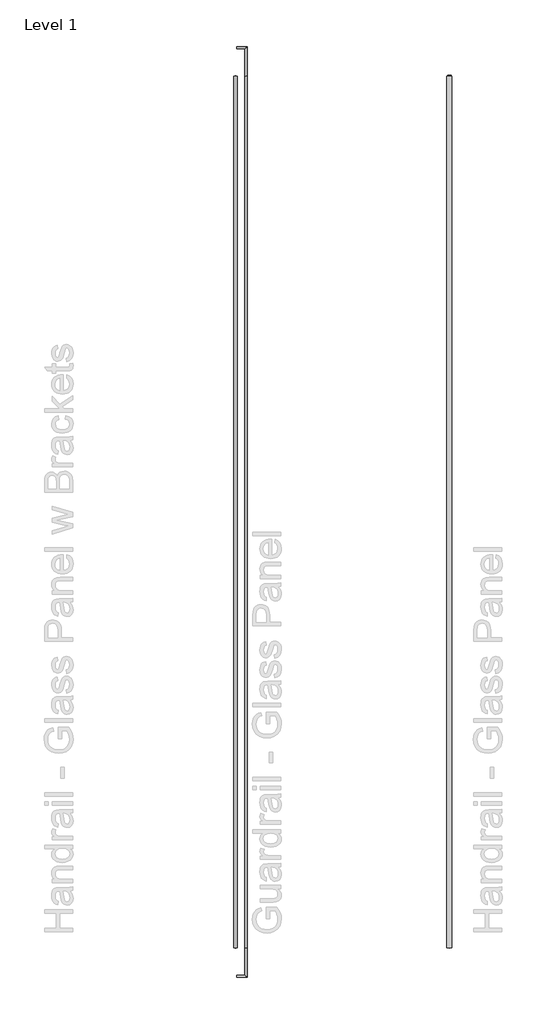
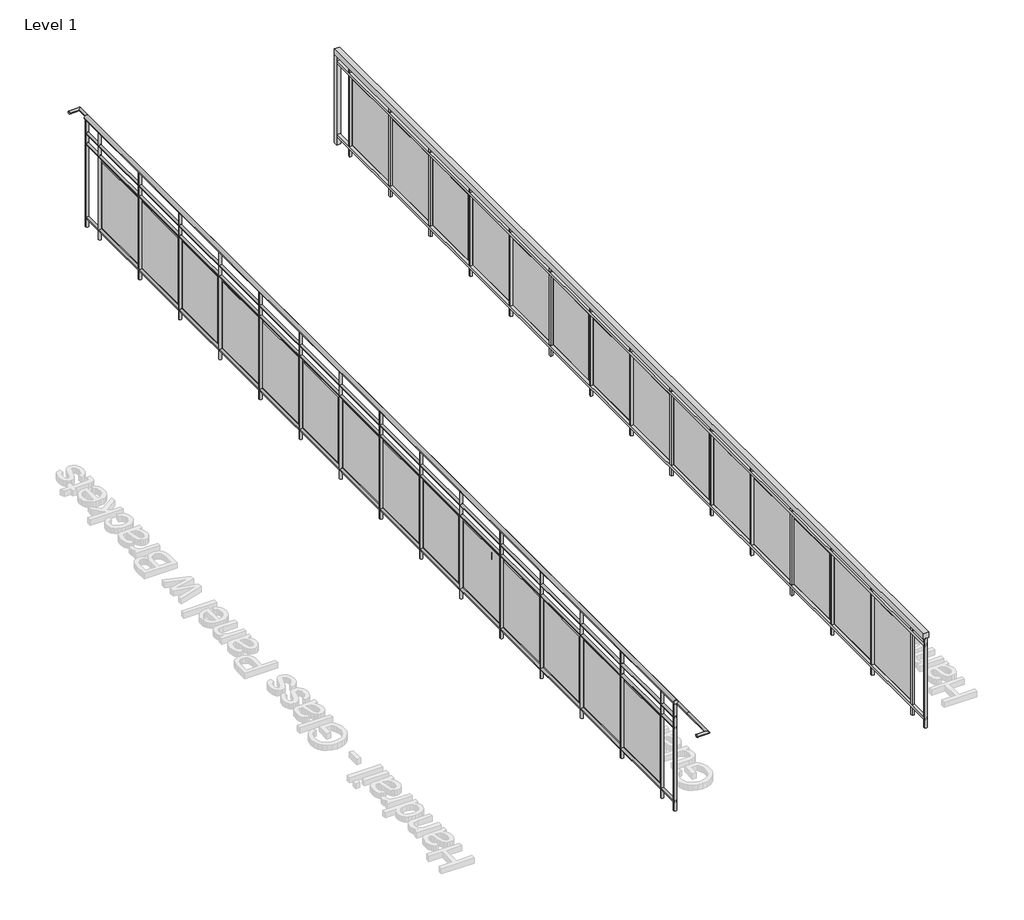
# One storey, part 4 of 14: 2 railings.
"""IFC4 building model written with IfcOpenShell, lengths in millimetres."""

from ifc_helpers import new_model, si_unit, point, frame, frame_2d, origin, origin_with_axes, place, context, project, spatial, polyline, circle_curve, ellipse_curve, trimmed, segment, composite_curve, outline, extrude, element, save
from ifc_brep_helpers import plane_surface, cylinder_surface, advanced_brep

model = new_model("IFC4")

# Units and contexts
model_context = context("Model", 3, world=origin())
ifc_project = project(units=[si_unit("LENGTHUNIT", "METRE", prefix="MILLI")], contexts=[model_context])

# Site, building, storey
site = spatial("IfcSite", under=ifc_project)
building = spatial("IfcBuilding", under=site)
storey = spatial("IfcBuildingStorey", under=building, Name="Level 1", Elevation=0.0)

# Railings
placement = place(None, origin())
element("IfcRailing", 1, ObjectType="Guardrail - Glass Panel", at=placement, inside=storey, context=model_context, shape_type="SolidModel", body=[
    advanced_brep(
    [(-12825.9978678, -5345.4143828, 901.7), (-12851.3978678, -5345.4143828, 901.7), (-12851.3978678, -14660.8643828, 901.7), (-12825.9978678, -14660.8643828, 901.7), (-12937.1228678, -5053.3143828, 901.7), (-12937.1228678, -5027.9143828, 901.7), (-12851.3978678, -5053.3143828, 901.7), (-12825.9978678, -5027.9143828, 901.7), (-12851.3978678, -14952.9643828, 901.7), (-12825.9978678, -14978.3643828, 901.7), (-12937.1228678, -14952.9643828, 901.7), (-12937.1228678, -14978.3643828, 901.7)],
    [
        (0, 1, circle_curve(frame((-12838.6978678, -5345.4143828, 901.7), z_axis=(0.0, -1.0, 0.0), x_axis=(1.0, 0.0, 0.0)), 12.7)),
        (1, 2),
        (2, 3, circle_curve(frame((-12838.6978678, -14660.8643828, 901.7), z_axis=(0.0, 1.0, 0.0), x_axis=(1.0, 0.0, 0.0)), 12.7)),
        (3, 0),
        (1, 0, circle_curve(frame((-12838.6978678, -5345.4143828, 901.7), z_axis=(0.0, -1.0, 0.0), x_axis=(1.0, 0.0, 0.0)), 12.7)),
        (3, 2, circle_curve(frame((-12838.6978678, -14660.8643828, 901.7), z_axis=(0.0, 1.0, 0.0), x_axis=(1.0, 0.0, 0.0)), 12.7)),
        (4, 5, circle_curve(frame((-12937.1228678, -5040.6143828, 901.7), z_axis=(-1.0, 0.0, 0.0), x_axis=(0.0, 1.0, 0.0)), 12.7)),
        (5, 4, circle_curve(frame((-12937.1228678, -5040.6143828, 901.7), z_axis=(-1.0, 0.0, 0.0), x_axis=(0.0, 1.0, 0.0)), 12.7)),
        (4, 6),
        (6, 7, ellipse_curve(frame((-12838.6978678, -5040.6143828, 901.7), z_axis=(-0.7071067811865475, 0.7071067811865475, 0.0), x_axis=(-0.7071067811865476, -0.7071067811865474, 0.0)), 17.9605122, 12.7)),
        (7, 5),
        (7, 6, ellipse_curve(frame((-12838.6978678, -5040.6143828, 901.7), z_axis=(-0.7071067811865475, 0.7071067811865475, 0.0), x_axis=(-0.7071067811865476, -0.7071067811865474, 0.0)), 17.9605122, 12.7)),
        (6, 1),
        (0, 7),
        (2, 8),
        (8, 9, ellipse_curve(frame((-12838.6978678, -14965.6643828, 901.7), z_axis=(0.7071067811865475, 0.7071067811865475, 0.0), x_axis=(-0.7071067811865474, 0.7071067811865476, 0.0)), 17.9605122, 12.7)),
        (9, 3),
        (9, 8, ellipse_curve(frame((-12838.6978678, -14965.6643828, 901.7), z_axis=(0.7071067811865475, 0.7071067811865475, 0.0), x_axis=(-0.7071067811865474, 0.7071067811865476, 0.0)), 17.9605122, 12.7)),
        (10, 11, circle_curve(frame((-12937.1228678, -14965.6643828, 901.7), z_axis=(-1.0, 0.0, 0.0), x_axis=(0.0, -1.0, 0.0)), 12.7)),
        (11, 10, circle_curve(frame((-12937.1228678, -14965.6643828, 901.7), z_axis=(-1.0, 0.0, 0.0), x_axis=(0.0, -1.0, 0.0)), 12.7)),
        (8, 10),
        (11, 9),
    ],
    [
        cylinder_surface(frame((-12838.6978678, -5345.4143828, 901.7), z_axis=(0.0, 1.0, 0.0), x_axis=(1.0, 0.0, 0.0)), 12.7),
        plane_surface(frame((-12937.1228678, -5040.6143828, 914.4), z_axis=(-1.0, 0.0, 0.0), x_axis=(0.0, 1.0, 0.0))),
        cylinder_surface(frame((-12937.1228678, -5040.6143828, 901.7), z_axis=(-1.0, 0.0, 0.0), x_axis=(0.0, 1.0, 0.0)), 12.7),
        cylinder_surface(frame((-12838.6978678, -5040.6143828, 901.7), z_axis=(0.0, 1.0, 0.0), x_axis=(1.0, 0.0, 0.0)), 12.7),
        cylinder_surface(frame((-12838.6978678, -14660.8643828, 901.7), z_axis=(0.0, 1.0, 0.0), x_axis=(1.0, 0.0, 0.0)), 12.7),
        plane_surface(frame((-12937.1228678, -14965.6643828, 914.4), z_axis=(-1.0, 0.0, 0.0), x_axis=(0.0, -1.0, 0.0))),
        cylinder_surface(frame((-12838.6978678, -14965.6643828, 901.7), z_axis=(1.0, 0.0, 0.0), x_axis=(0.0, -1.0, 0.0)), 12.7),
    ],
    [
        (0, [[1, 2, 3, 4]]),
        (0, [[5, -4, 6, -2]]),
        (1, [[7, 8]]),
        (2, [[-7, 9, 10, 11]]),
        (2, [[-8, -11, 12, -9]]),
        (3, [[-10, 13, -1, 14]]),
        (3, [[-12, -14, -5, -13]]),
        (4, [[-3, 15, 16, 17]]),
        (4, [[-6, -17, 18, -15]]),
        (5, [[19, 20]]),
        (6, [[-16, 21, -20, 22]]),
        (6, [[-18, -22, -19, -21]]),
    ],
),
    extrude(outline(composite_curve([segment(trimmed(circle_curve(frame_2d((1047.75, -12952.9978678)), 19.05), [point((1047.75, -12972.0478678))], [point((1047.75, -12933.9478678))], False, "CARTESIAN"), True, "CONTINUOUS"), segment(trimmed(circle_curve(frame_2d((1047.75, -12952.9978678)), 19.05), [point((1047.75, -12933.9478678))], [point((1047.75, -12972.0478678))], False, "CARTESIAN"), True, "CONTINUOUS")], self_intersect=False)), frame((0.0, -14660.8643828, 0.0), z_axis=(0.0, 1.0, 0.0), x_axis=(0.0, 0.0, 1.0)), (0.0, 0.0, 1.0), 9315.45),
    extrude(outline(composite_curve([segment(trimmed(circle_curve(frame_2d((901.7, -12952.9978678)), 12.7), [point((901.7, -12940.2978678))], [point((901.7, -12965.6978678))], False, "CARTESIAN"), True, "CONTINUOUS"), segment(trimmed(circle_curve(frame_2d((901.7, -12952.9978678)), 12.7), [point((901.7, -12965.6978678))], [point((901.7, -12940.2978678))], False, "CARTESIAN"), True, "CONTINUOUS")], self_intersect=False)), frame((0.0, -14660.8643828, 0.0), z_axis=(0.0, 1.0, 0.0), x_axis=(0.0, 0.0, 1.0)), (0.0, 0.0, 1.0), 9315.45),
    extrude(outline(composite_curve([segment(trimmed(circle_curve(frame_2d((800.1, -12952.9978678)), 12.7), [point((800.1, -12940.2978678))], [point((800.1, -12965.6978678))], False, "CARTESIAN"), True, "CONTINUOUS"), segment(trimmed(circle_curve(frame_2d((800.1, -12952.9978678)), 12.7), [point((800.1, -12965.6978678))], [point((800.1, -12940.2978678))], False, "CARTESIAN"), True, "CONTINUOUS")], self_intersect=False)), frame((0.0, -14660.8643828, 0.0), z_axis=(0.0, 1.0, 0.0), x_axis=(0.0, 0.0, 1.0)), (0.0, 0.0, 1.0), 9315.45),
    extrude(outline(composite_curve([segment(trimmed(circle_curve(frame_2d((88.9, -12952.9978678)), 12.7), [point((88.9, -12940.2978678))], [point((88.9, -12965.6978678))], False, "CARTESIAN"), True, "CONTINUOUS"), segment(trimmed(circle_curve(frame_2d((88.9, -12952.9978678)), 12.7), [point((88.9, -12965.6978678))], [point((88.9, -12940.2978678))], False, "CARTESIAN"), True, "CONTINUOUS")], self_intersect=False)), frame((0.0, -14660.8643828, 0.0), z_axis=(0.0, 1.0, 0.0), x_axis=(0.0, 0.0, 1.0)), (0.0, 0.0, 1.0), 9315.45),
    extrude(outline(composite_curve([segment(trimmed(circle_curve(frame_2d((-12952.9978678, -14448.1393828)), 12.7), [point((-12940.2978678, -14448.1393828))], [point((-12965.6978678, -14448.1393828))], False, "CARTESIAN"), True, "CONTINUOUS"), segment(trimmed(circle_curve(frame_2d((-12952.9978678, -14448.1393828)), 12.7), [point((-12965.6978678, -14448.1393828))], [point((-12940.2978678, -14448.1393828))], False, "CARTESIAN"), True, "CONTINUOUS")], self_intersect=False)), origin_with_axes(), (0.0, 0.0, 1.0), 1028.7),
    extrude(outline(polyline([(-12946.6478678, -13851.2393828), (-12946.6478678, -14410.0393828), (-12952.9978678, -14410.0393828), (-12952.9978678, -13851.2393828), (-12946.6478678, -13851.2393828)])), frame((0.0, 0.0, 127.0), z_axis=(0.0, 0.0, 1.0), x_axis=(1.0, 0.0, 0.0)), (0.0, 0.0, 1.0), 635.0),
    extrude(outline(composite_curve([segment(trimmed(circle_curve(frame_2d((-12952.9978678, -13813.1393828)), 12.7), [point((-12940.2978678, -13813.1393828))], [point((-12965.6978678, -13813.1393828))], False, "CARTESIAN"), True, "CONTINUOUS"), segment(trimmed(circle_curve(frame_2d((-12952.9978678, -13813.1393828)), 12.7), [point((-12965.6978678, -13813.1393828))], [point((-12940.2978678, -13813.1393828))], False, "CARTESIAN"), True, "CONTINUOUS")], self_intersect=False)), origin_with_axes(), (0.0, 0.0, 1.0), 1028.7),
    extrude(outline(polyline([(-12946.6478678, -13216.2393828), (-12946.6478678, -13775.0393828), (-12952.9978678, -13775.0393828), (-12952.9978678, -13216.2393828), (-12946.6478678, -13216.2393828)])), frame((0.0, 0.0, 127.0), z_axis=(0.0, 0.0, 1.0), x_axis=(1.0, 0.0, 0.0)), (0.0, 0.0, 1.0), 635.0),
    extrude(outline(composite_curve([segment(trimmed(circle_curve(frame_2d((-12952.9978678, -13178.1393828)), 12.7), [point((-12940.2978678, -13178.1393828))], [point((-12965.6978678, -13178.1393828))], False, "CARTESIAN"), True, "CONTINUOUS"), segment(trimmed(circle_curve(frame_2d((-12952.9978678, -13178.1393828)), 12.7), [point((-12965.6978678, -13178.1393828))], [point((-12940.2978678, -13178.1393828))], False, "CARTESIAN"), True, "CONTINUOUS")], self_intersect=False)), origin_with_axes(), (0.0, 0.0, 1.0), 1028.7),
    extrude(outline(polyline([(-12946.6478678, -12581.2393828), (-12946.6478678, -13140.0393828), (-12952.9978678, -13140.0393828), (-12952.9978678, -12581.2393828), (-12946.6478678, -12581.2393828)])), frame((0.0, 0.0, 127.0), z_axis=(0.0, 0.0, 1.0), x_axis=(1.0, 0.0, 0.0)), (0.0, 0.0, 1.0), 635.0),
    extrude(outline(composite_curve([segment(trimmed(circle_curve(frame_2d((-12952.9978678, -12543.1393828)), 12.7), [point((-12940.2978678, -12543.1393828))], [point((-12965.6978678, -12543.1393828))], False, "CARTESIAN"), True, "CONTINUOUS"), segment(trimmed(circle_curve(frame_2d((-12952.9978678, -12543.1393828)), 12.7), [point((-12965.6978678, -12543.1393828))], [point((-12940.2978678, -12543.1393828))], False, "CARTESIAN"), True, "CONTINUOUS")], self_intersect=False)), origin_with_axes(), (0.0, 0.0, 1.0), 1028.7),
    extrude(outline(polyline([(-12946.6478678, -11946.2393828), (-12946.6478678, -12505.0393828), (-12952.9978678, -12505.0393828), (-12952.9978678, -11946.2393828), (-12946.6478678, -11946.2393828)])), frame((0.0, 0.0, 127.0), z_axis=(0.0, 0.0, 1.0), x_axis=(1.0, 0.0, 0.0)), (0.0, 0.0, 1.0), 635.0),
    extrude(outline(composite_curve([segment(trimmed(circle_curve(frame_2d((-12952.9978678, -11908.1393828)), 12.7), [point((-12940.2978678, -11908.1393828))], [point((-12965.6978678, -11908.1393828))], False, "CARTESIAN"), True, "CONTINUOUS"), segment(trimmed(circle_curve(frame_2d((-12952.9978678, -11908.1393828)), 12.7), [point((-12965.6978678, -11908.1393828))], [point((-12940.2978678, -11908.1393828))], False, "CARTESIAN"), True, "CONTINUOUS")], self_intersect=False)), origin_with_axes(), (0.0, 0.0, 1.0), 1028.7),
    extrude(outline(polyline([(-12946.6478678, -11311.2393828), (-12946.6478678, -11870.0393828), (-12952.9978678, -11870.0393828), (-12952.9978678, -11311.2393828), (-12946.6478678, -11311.2393828)])), frame((0.0, 0.0, 127.0), z_axis=(0.0, 0.0, 1.0), x_axis=(1.0, 0.0, 0.0)), (0.0, 0.0, 1.0), 635.0),
    extrude(outline(composite_curve([segment(trimmed(circle_curve(frame_2d((-12952.9978678, -11273.1393828)), 12.7), [point((-12940.2978678, -11273.1393828))], [point((-12965.6978678, -11273.1393828))], False, "CARTESIAN"), True, "CONTINUOUS"), segment(trimmed(circle_curve(frame_2d((-12952.9978678, -11273.1393828)), 12.7), [point((-12965.6978678, -11273.1393828))], [point((-12940.2978678, -11273.1393828))], False, "CARTESIAN"), True, "CONTINUOUS")], self_intersect=False)), origin_with_axes(), (0.0, 0.0, 1.0), 1028.7),
    extrude(outline(polyline([(-12946.6478678, -10676.2393828), (-12946.6478678, -11235.0393828), (-12952.9978678, -11235.0393828), (-12952.9978678, -10676.2393828), (-12946.6478678, -10676.2393828)])), frame((0.0, 0.0, 127.0), z_axis=(0.0, 0.0, 1.0), x_axis=(1.0, 0.0, 0.0)), (0.0, 0.0, 1.0), 635.0),
    extrude(outline(composite_curve([segment(trimmed(circle_curve(frame_2d((-12952.9978678, -10638.1393828)), 12.7), [point((-12940.2978678, -10638.1393828))], [point((-12965.6978678, -10638.1393828))], False, "CARTESIAN"), True, "CONTINUOUS"), segment(trimmed(circle_curve(frame_2d((-12952.9978678, -10638.1393828)), 12.7), [point((-12965.6978678, -10638.1393828))], [point((-12940.2978678, -10638.1393828))], False, "CARTESIAN"), True, "CONTINUOUS")], self_intersect=False)), origin_with_axes(), (0.0, 0.0, 1.0), 1028.7),
    extrude(outline(polyline([(-12946.6478678, -10041.2393828), (-12946.6478678, -10600.0393828), (-12952.9978678, -10600.0393828), (-12952.9978678, -10041.2393828), (-12946.6478678, -10041.2393828)])), frame((0.0, 0.0, 127.0), z_axis=(0.0, 0.0, 1.0), x_axis=(1.0, 0.0, 0.0)), (0.0, 0.0, 1.0), 635.0),
    extrude(outline(composite_curve([segment(trimmed(circle_curve(frame_2d((-12952.9978678, -10003.1393828)), 12.7), [point((-12940.2978678, -10003.1393828))], [point((-12965.6978678, -10003.1393828))], False, "CARTESIAN"), True, "CONTINUOUS"), segment(trimmed(circle_curve(frame_2d((-12952.9978678, -10003.1393828)), 12.7), [point((-12965.6978678, -10003.1393828))], [point((-12940.2978678, -10003.1393828))], False, "CARTESIAN"), True, "CONTINUOUS")], self_intersect=False)), origin_with_axes(), (0.0, 0.0, 1.0), 1028.7),
    extrude(outline(polyline([(-12946.6478678, -9406.2393828), (-12946.6478678, -9965.0393828), (-12952.9978678, -9965.0393828), (-12952.9978678, -9406.2393828), (-12946.6478678, -9406.2393828)])), frame((0.0, 0.0, 127.0), z_axis=(0.0, 0.0, 1.0), x_axis=(1.0, 0.0, 0.0)), (0.0, 0.0, 1.0), 635.0),
    extrude(outline(composite_curve([segment(trimmed(circle_curve(frame_2d((-12952.9978678, -9368.1393828)), 12.7), [point((-12940.2978678, -9368.1393828))], [point((-12965.6978678, -9368.1393828))], False, "CARTESIAN"), True, "CONTINUOUS"), segment(trimmed(circle_curve(frame_2d((-12952.9978678, -9368.1393828)), 12.7), [point((-12965.6978678, -9368.1393828))], [point((-12940.2978678, -9368.1393828))], False, "CARTESIAN"), True, "CONTINUOUS")], self_intersect=False)), origin_with_axes(), (0.0, 0.0, 1.0), 1028.7),
    extrude(outline(polyline([(-12946.6478678, -8771.2393828), (-12946.6478678, -9330.0393828), (-12952.9978678, -9330.0393828), (-12952.9978678, -8771.2393828), (-12946.6478678, -8771.2393828)])), frame((0.0, 0.0, 127.0), z_axis=(0.0, 0.0, 1.0), x_axis=(1.0, 0.0, 0.0)), (0.0, 0.0, 1.0), 635.0),
    extrude(outline(composite_curve([segment(trimmed(circle_curve(frame_2d((-12952.9978678, -8733.1393828)), 12.7), [point((-12940.2978678, -8733.1393828))], [point((-12965.6978678, -8733.1393828))], False, "CARTESIAN"), True, "CONTINUOUS"), segment(trimmed(circle_curve(frame_2d((-12952.9978678, -8733.1393828)), 12.7), [point((-12965.6978678, -8733.1393828))], [point((-12940.2978678, -8733.1393828))], False, "CARTESIAN"), True, "CONTINUOUS")], self_intersect=False)), origin_with_axes(), (0.0, 0.0, 1.0), 1028.7),
    extrude(outline(polyline([(-12946.6478678, -8136.2393828), (-12946.6478678, -8695.0393828), (-12952.9978678, -8695.0393828), (-12952.9978678, -8136.2393828), (-12946.6478678, -8136.2393828)])), frame((0.0, 0.0, 127.0), z_axis=(0.0, 0.0, 1.0), x_axis=(1.0, 0.0, 0.0)), (0.0, 0.0, 1.0), 635.0),
    extrude(outline(composite_curve([segment(trimmed(circle_curve(frame_2d((-12952.9978678, -8098.1393828)), 12.7), [point((-12940.2978678, -8098.1393828))], [point((-12965.6978678, -8098.1393828))], False, "CARTESIAN"), True, "CONTINUOUS"), segment(trimmed(circle_curve(frame_2d((-12952.9978678, -8098.1393828)), 12.7), [point((-12965.6978678, -8098.1393828))], [point((-12940.2978678, -8098.1393828))], False, "CARTESIAN"), True, "CONTINUOUS")], self_intersect=False)), origin_with_axes(), (0.0, 0.0, 1.0), 1028.7),
    extrude(outline(polyline([(-12946.6478678, -7501.2393828), (-12946.6478678, -8060.0393828), (-12952.9978678, -8060.0393828), (-12952.9978678, -7501.2393828), (-12946.6478678, -7501.2393828)])), frame((0.0, 0.0, 127.0), z_axis=(0.0, 0.0, 1.0), x_axis=(1.0, 0.0, 0.0)), (0.0, 0.0, 1.0), 635.0),
    extrude(outline(composite_curve([segment(trimmed(circle_curve(frame_2d((-12952.9978678, -7463.1393828)), 12.7), [point((-12940.2978678, -7463.1393828))], [point((-12965.6978678, -7463.1393828))], False, "CARTESIAN"), True, "CONTINUOUS"), segment(trimmed(circle_curve(frame_2d((-12952.9978678, -7463.1393828)), 12.7), [point((-12965.6978678, -7463.1393828))], [point((-12940.2978678, -7463.1393828))], False, "CARTESIAN"), True, "CONTINUOUS")], self_intersect=False)), origin_with_axes(), (0.0, 0.0, 1.0), 1028.7),
    extrude(outline(polyline([(-12946.6478678, -6866.2393828), (-12946.6478678, -7425.0393828), (-12952.9978678, -7425.0393828), (-12952.9978678, -6866.2393828), (-12946.6478678, -6866.2393828)])), frame((0.0, 0.0, 127.0), z_axis=(0.0, 0.0, 1.0), x_axis=(1.0, 0.0, 0.0)), (0.0, 0.0, 1.0), 635.0),
    extrude(outline(composite_curve([segment(trimmed(circle_curve(frame_2d((-12952.9978678, -6828.1393828)), 12.7), [point((-12940.2978678, -6828.1393828))], [point((-12965.6978678, -6828.1393828))], False, "CARTESIAN"), True, "CONTINUOUS"), segment(trimmed(circle_curve(frame_2d((-12952.9978678, -6828.1393828)), 12.7), [point((-12965.6978678, -6828.1393828))], [point((-12940.2978678, -6828.1393828))], False, "CARTESIAN"), True, "CONTINUOUS")], self_intersect=False)), origin_with_axes(), (0.0, 0.0, 1.0), 1028.7),
    extrude(outline(polyline([(-12946.6478678, -6231.2393828), (-12946.6478678, -6790.0393828), (-12952.9978678, -6790.0393828), (-12952.9978678, -6231.2393828), (-12946.6478678, -6231.2393828)])), frame((0.0, 0.0, 127.0), z_axis=(0.0, 0.0, 1.0), x_axis=(1.0, 0.0, 0.0)), (0.0, 0.0, 1.0), 635.0),
    extrude(outline(composite_curve([segment(trimmed(circle_curve(frame_2d((-12952.9978678, -6193.1393828)), 12.7), [point((-12940.2978678, -6193.1393828))], [point((-12965.6978678, -6193.1393828))], False, "CARTESIAN"), True, "CONTINUOUS"), segment(trimmed(circle_curve(frame_2d((-12952.9978678, -6193.1393828)), 12.7), [point((-12965.6978678, -6193.1393828))], [point((-12940.2978678, -6193.1393828))], False, "CARTESIAN"), True, "CONTINUOUS")], self_intersect=False)), origin_with_axes(), (0.0, 0.0, 1.0), 1028.7),
    extrude(outline(polyline([(-12946.6478678, -5596.2393828), (-12946.6478678, -6155.0393828), (-12952.9978678, -6155.0393828), (-12952.9978678, -5596.2393828), (-12946.6478678, -5596.2393828)])), frame((0.0, 0.0, 127.0), z_axis=(0.0, 0.0, 1.0), x_axis=(1.0, 0.0, 0.0)), (0.0, 0.0, 1.0), 635.0),
    extrude(outline(composite_curve([segment(trimmed(circle_curve(frame_2d((-12952.9978678, -5558.1393828)), 12.7), [point((-12940.2978678, -5558.1393828))], [point((-12965.6978678, -5558.1393828))], False, "CARTESIAN"), True, "CONTINUOUS"), segment(trimmed(circle_curve(frame_2d((-12952.9978678, -5558.1393828)), 12.7), [point((-12965.6978678, -5558.1393828))], [point((-12940.2978678, -5558.1393828))], False, "CARTESIAN"), True, "CONTINUOUS")], self_intersect=False)), origin_with_axes(), (0.0, 0.0, 1.0), 1028.7),
    extrude(outline(composite_curve([segment(trimmed(circle_curve(frame_2d((-12952.9978678, -14651.3393828)), 12.7), [point((-12940.2978678, -14651.3393828))], [point((-12965.6978678, -14651.3393828))], False, "CARTESIAN"), True, "CONTINUOUS"), segment(trimmed(circle_curve(frame_2d((-12952.9978678, -14651.3393828)), 12.7), [point((-12965.6978678, -14651.3393828))], [point((-12940.2978678, -14651.3393828))], False, "CARTESIAN"), True, "CONTINUOUS")], self_intersect=False)), origin_with_axes(), (0.0, 0.0, 1.0), 1028.7),
    extrude(outline(composite_curve([segment(trimmed(circle_curve(frame_2d((-12952.9978678, -5354.9393828)), 12.7), [point((-12940.2978678, -5354.9393828))], [point((-12965.6978678, -5354.9393828))], False, "CARTESIAN"), True, "CONTINUOUS"), segment(trimmed(circle_curve(frame_2d((-12952.9978678, -5354.9393828)), 12.7), [point((-12965.6978678, -5354.9393828))], [point((-12940.2978678, -5354.9393828))], False, "CARTESIAN"), True, "CONTINUOUS")], self_intersect=False)), origin_with_axes(), (0.0, 0.0, 1.0), 1028.7),
])
element("IfcRailing", 2, ObjectType="Handrail - Glass Panel", at=placement, inside=storey, context=model_context, shape_type="SweptSolid", body=[
    extrude(outline(polyline([(-10692.3978678, -5345.4143828), (-10641.5978678, -5345.4143828), (-10641.5978678, -14660.8643828), (-10692.3978678, -14660.8643828), (-10692.3978678, -5345.4143828)])), frame((0.0, 0.0, 863.6), z_axis=(0.0, 0.0, 1.0), x_axis=(1.0, 0.0, 0.0)), (0.0, 0.0, 1.0), 50.8),
    extrude(outline(polyline([(-10679.6978678, -5345.4143828), (-10654.2978678, -5345.4143828), (-10654.2978678, -14660.8643828), (-10679.6978678, -14660.8643828), (-10679.6978678, -5345.4143828)])), frame((0.0, 0.0, 787.4), z_axis=(0.0, 0.0, 1.0), x_axis=(1.0, 0.0, 0.0)), (0.0, 0.0, 1.0), 25.4),
    extrude(outline(polyline([(-10679.6978678, -5345.4143828), (-10654.2978678, -5345.4143828), (-10654.2978678, -14660.8643828), (-10679.6978678, -14660.8643828), (-10679.6978678, -5345.4143828)])), frame((0.0, 0.0, 76.2), z_axis=(0.0, 0.0, 1.0), x_axis=(1.0, 0.0, 0.0)), (0.0, 0.0, 1.0), 25.4),
    extrude(outline(polyline([(-10676.5228678, -14438.6143828), (-10657.4728678, -14438.6143828), (-10657.4728678, -14457.6643828), (-10676.5228678, -14457.6643828), (-10676.5228678, -14438.6143828)])), origin_with_axes(), (0.0, 0.0, 1.0), 863.6),
    extrude(outline(polyline([(-10660.6478678, -13851.2393828), (-10660.6478678, -14410.0393828), (-10666.9978678, -14410.0393828), (-10666.9978678, -13851.2393828), (-10660.6478678, -13851.2393828)])), frame((0.0, 0.0, 127.0), z_axis=(0.0, 0.0, 1.0), x_axis=(1.0, 0.0, 0.0)), (0.0, 0.0, 1.0), 635.0),
    extrude(outline(polyline([(-10676.5228678, -13803.6143828), (-10657.4728678, -13803.6143828), (-10657.4728678, -13822.6643828), (-10676.5228678, -13822.6643828), (-10676.5228678, -13803.6143828)])), origin_with_axes(), (0.0, 0.0, 1.0), 863.6),
    extrude(outline(polyline([(-10660.6478678, -13216.2393828), (-10660.6478678, -13775.0393828), (-10666.9978678, -13775.0393828), (-10666.9978678, -13216.2393828), (-10660.6478678, -13216.2393828)])), frame((0.0, 0.0, 127.0), z_axis=(0.0, 0.0, 1.0), x_axis=(1.0, 0.0, 0.0)), (0.0, 0.0, 1.0), 635.0),
    extrude(outline(polyline([(-10676.5228678, -13168.6143828), (-10657.4728678, -13168.6143828), (-10657.4728678, -13187.6643828), (-10676.5228678, -13187.6643828), (-10676.5228678, -13168.6143828)])), origin_with_axes(), (0.0, 0.0, 1.0), 863.6),
    extrude(outline(polyline([(-10660.6478678, -12581.2393828), (-10660.6478678, -13140.0393828), (-10666.9978678, -13140.0393828), (-10666.9978678, -12581.2393828), (-10660.6478678, -12581.2393828)])), frame((0.0, 0.0, 127.0), z_axis=(0.0, 0.0, 1.0), x_axis=(1.0, 0.0, 0.0)), (0.0, 0.0, 1.0), 635.0),
    extrude(outline(polyline([(-10676.5228678, -12533.6143828), (-10657.4728678, -12533.6143828), (-10657.4728678, -12552.6643828), (-10676.5228678, -12552.6643828), (-10676.5228678, -12533.6143828)])), origin_with_axes(), (0.0, 0.0, 1.0), 863.6),
    extrude(outline(polyline([(-10660.6478678, -11946.2393828), (-10660.6478678, -12505.0393828), (-10666.9978678, -12505.0393828), (-10666.9978678, -11946.2393828), (-10660.6478678, -11946.2393828)])), frame((0.0, 0.0, 127.0), z_axis=(0.0, 0.0, 1.0), x_axis=(1.0, 0.0, 0.0)), (0.0, 0.0, 1.0), 635.0),
    extrude(outline(polyline([(-10676.5228678, -11898.6143828), (-10657.4728678, -11898.6143828), (-10657.4728678, -11917.6643828), (-10676.5228678, -11917.6643828), (-10676.5228678, -11898.6143828)])), origin_with_axes(), (0.0, 0.0, 1.0), 863.6),
    extrude(outline(polyline([(-10660.6478678, -11311.2393828), (-10660.6478678, -11870.0393828), (-10666.9978678, -11870.0393828), (-10666.9978678, -11311.2393828), (-10660.6478678, -11311.2393828)])), frame((0.0, 0.0, 127.0), z_axis=(0.0, 0.0, 1.0), x_axis=(1.0, 0.0, 0.0)), (0.0, 0.0, 1.0), 635.0),
    extrude(outline(polyline([(-10676.5228678, -11263.6143828), (-10657.4728678, -11263.6143828), (-10657.4728678, -11282.6643828), (-10676.5228678, -11282.6643828), (-10676.5228678, -11263.6143828)])), origin_with_axes(), (0.0, 0.0, 1.0), 863.6),
    extrude(outline(polyline([(-10660.6478678, -10676.2393828), (-10660.6478678, -11235.0393828), (-10666.9978678, -11235.0393828), (-10666.9978678, -10676.2393828), (-10660.6478678, -10676.2393828)])), frame((0.0, 0.0, 127.0), z_axis=(0.0, 0.0, 1.0), x_axis=(1.0, 0.0, 0.0)), (0.0, 0.0, 1.0), 635.0),
    extrude(outline(polyline([(-10676.5228678, -10628.6143828), (-10657.4728678, -10628.6143828), (-10657.4728678, -10647.6643828), (-10676.5228678, -10647.6643828), (-10676.5228678, -10628.6143828)])), origin_with_axes(), (0.0, 0.0, 1.0), 863.6),
    extrude(outline(polyline([(-10660.6478678, -10041.2393828), (-10660.6478678, -10600.0393828), (-10666.9978678, -10600.0393828), (-10666.9978678, -10041.2393828), (-10660.6478678, -10041.2393828)])), frame((0.0, 0.0, 127.0), z_axis=(0.0, 0.0, 1.0), x_axis=(1.0, 0.0, 0.0)), (0.0, 0.0, 1.0), 635.0),
    extrude(outline(polyline([(-10676.5228678, -9993.6143828), (-10657.4728678, -9993.6143828), (-10657.4728678, -10012.6643828), (-10676.5228678, -10012.6643828), (-10676.5228678, -9993.6143828)])), origin_with_axes(), (0.0, 0.0, 1.0), 863.6),
    extrude(outline(polyline([(-10660.6478678, -9406.2393828), (-10660.6478678, -9965.0393828), (-10666.9978678, -9965.0393828), (-10666.9978678, -9406.2393828), (-10660.6478678, -9406.2393828)])), frame((0.0, 0.0, 127.0), z_axis=(0.0, 0.0, 1.0), x_axis=(1.0, 0.0, 0.0)), (0.0, 0.0, 1.0), 635.0),
    extrude(outline(polyline([(-10676.5228678, -9358.6143828), (-10657.4728678, -9358.6143828), (-10657.4728678, -9377.6643828), (-10676.5228678, -9377.6643828), (-10676.5228678, -9358.6143828)])), origin_with_axes(), (0.0, 0.0, 1.0), 863.6),
    extrude(outline(polyline([(-10660.6478678, -8771.2393828), (-10660.6478678, -9330.0393828), (-10666.9978678, -9330.0393828), (-10666.9978678, -8771.2393828), (-10660.6478678, -8771.2393828)])), frame((0.0, 0.0, 127.0), z_axis=(0.0, 0.0, 1.0), x_axis=(1.0, 0.0, 0.0)), (0.0, 0.0, 1.0), 635.0),
    extrude(outline(polyline([(-10676.5228678, -8723.6143828), (-10657.4728678, -8723.6143828), (-10657.4728678, -8742.6643828), (-10676.5228678, -8742.6643828), (-10676.5228678, -8723.6143828)])), origin_with_axes(), (0.0, 0.0, 1.0), 863.6),
    extrude(outline(polyline([(-10660.6478678, -8136.2393828), (-10660.6478678, -8695.0393828), (-10666.9978678, -8695.0393828), (-10666.9978678, -8136.2393828), (-10660.6478678, -8136.2393828)])), frame((0.0, 0.0, 127.0), z_axis=(0.0, 0.0, 1.0), x_axis=(1.0, 0.0, 0.0)), (0.0, 0.0, 1.0), 635.0),
    extrude(outline(polyline([(-10676.5228678, -8088.6143828), (-10657.4728678, -8088.6143828), (-10657.4728678, -8107.6643828), (-10676.5228678, -8107.6643828), (-10676.5228678, -8088.6143828)])), origin_with_axes(), (0.0, 0.0, 1.0), 863.6),
    extrude(outline(polyline([(-10660.6478678, -7501.2393828), (-10660.6478678, -8060.0393828), (-10666.9978678, -8060.0393828), (-10666.9978678, -7501.2393828), (-10660.6478678, -7501.2393828)])), frame((0.0, 0.0, 127.0), z_axis=(0.0, 0.0, 1.0), x_axis=(1.0, 0.0, 0.0)), (0.0, 0.0, 1.0), 635.0),
    extrude(outline(polyline([(-10676.5228678, -7453.6143828), (-10657.4728678, -7453.6143828), (-10657.4728678, -7472.6643828), (-10676.5228678, -7472.6643828), (-10676.5228678, -7453.6143828)])), origin_with_axes(), (0.0, 0.0, 1.0), 863.6),
    extrude(outline(polyline([(-10660.6478678, -6866.2393828), (-10660.6478678, -7425.0393828), (-10666.9978678, -7425.0393828), (-10666.9978678, -6866.2393828), (-10660.6478678, -6866.2393828)])), frame((0.0, 0.0, 127.0), z_axis=(0.0, 0.0, 1.0), x_axis=(1.0, 0.0, 0.0)), (0.0, 0.0, 1.0), 635.0),
    extrude(outline(polyline([(-10676.5228678, -6818.6143828), (-10657.4728678, -6818.6143828), (-10657.4728678, -6837.6643828), (-10676.5228678, -6837.6643828), (-10676.5228678, -6818.6143828)])), origin_with_axes(), (0.0, 0.0, 1.0), 863.6),
    extrude(outline(polyline([(-10660.6478678, -6231.2393828), (-10660.6478678, -6790.0393828), (-10666.9978678, -6790.0393828), (-10666.9978678, -6231.2393828), (-10660.6478678, -6231.2393828)])), frame((0.0, 0.0, 127.0), z_axis=(0.0, 0.0, 1.0), x_axis=(1.0, 0.0, 0.0)), (0.0, 0.0, 1.0), 635.0),
    extrude(outline(polyline([(-10676.5228678, -6183.6143828), (-10657.4728678, -6183.6143828), (-10657.4728678, -6202.6643828), (-10676.5228678, -6202.6643828), (-10676.5228678, -6183.6143828)])), origin_with_axes(), (0.0, 0.0, 1.0), 863.6),
    extrude(outline(polyline([(-10660.6478678, -5596.2393828), (-10660.6478678, -6155.0393828), (-10666.9978678, -6155.0393828), (-10666.9978678, -5596.2393828), (-10660.6478678, -5596.2393828)])), frame((0.0, 0.0, 127.0), z_axis=(0.0, 0.0, 1.0), x_axis=(1.0, 0.0, 0.0)), (0.0, 0.0, 1.0), 635.0),
    extrude(outline(polyline([(-10676.5228678, -5548.6143828), (-10657.4728678, -5548.6143828), (-10657.4728678, -5567.6643828), (-10676.5228678, -5567.6643828), (-10676.5228678, -5548.6143828)])), origin_with_axes(), (0.0, 0.0, 1.0), 863.6),
    extrude(outline(composite_curve([segment(trimmed(circle_curve(frame_2d((-10666.9978678, -14651.3393828)), 12.7), [point((-10654.2978678, -14651.3393828))], [point((-10679.6978678, -14651.3393828))], False, "CARTESIAN"), True, "CONTINUOUS"), segment(trimmed(circle_curve(frame_2d((-10666.9978678, -14651.3393828)), 12.7), [point((-10679.6978678, -14651.3393828))], [point((-10654.2978678, -14651.3393828))], False, "CARTESIAN"), True, "CONTINUOUS")], self_intersect=False)), origin_with_axes(), (0.0, 0.0, 1.0), 863.6),
    extrude(outline(polyline([(-10686.0478678, -5335.8893828), (-10647.9478678, -5335.8893828), (-10647.9478678, -5373.9893828), (-10686.0478678, -5373.9893828), (-10686.0478678, -5335.8893828)])), origin_with_axes(), (0.0, 0.0, 1.0), 863.6),
])

save(model, "model.ifc")
